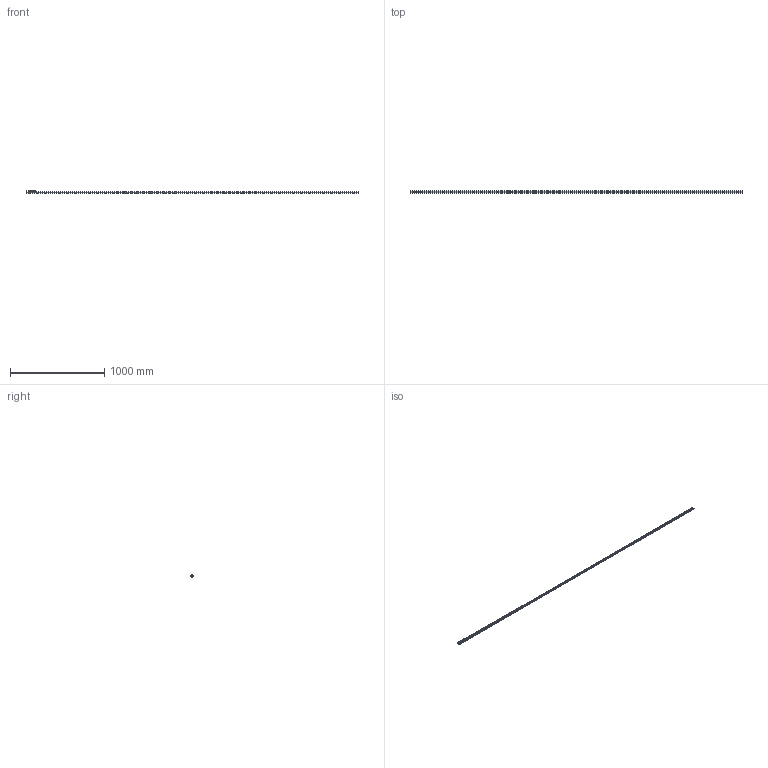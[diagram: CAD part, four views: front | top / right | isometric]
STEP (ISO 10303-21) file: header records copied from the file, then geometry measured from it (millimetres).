
FILE_DESCRIPTION( ( 'STEP AP214' ), '1' );
FILE_NAME( 'p:/temp/worker_22/temp/exporttempdir_5640_316_ax9Bd/format_1/TEN26-3520-CEN26-92.stp', '2020-05-08T18:55:26', ( 'License CC BY-ND 4.0' ), ( 'CADENAS' ), ' ', 'PARTsolutions', ' ' );
FILE_SCHEMA( ( 'AUTOMOTIVE_DESIGN { 1 0 10303 214 1 1 1 1 }' ) );
Length unit declared in the file: millimetre
Products named in the file (6): TEN26-3520-CEN26-92; _TEN 26-3520; _CEN26-92_1; _RLN26(11.2_M5); _RLA26(11.2_M5); _LAN-26
Assembly tree (8 placements, depth 2):
  TEN26-3520-CEN26-92
    _TEN 26-3520
    _CEN26-92_1
    _RLN26(11.2_M5)  x2
    _RLA26(11.2_M5)
    _LAN-26  x3
Bounding box: 3520 x 25.88 x 22 mm (x, y, z)
Volume: 376598.9 mm3; surface area: 319782.1 mm2
Topology: 8 solids, 8 shells, 277 faces, 633 edges, 399 vertices
Faces by surface type: plane 131, cylinder 113, cone 24, bspline 9
Full cylindrical faces by diameter (mm): 2.5 x2, 4.134 x5, 4.5 x3, 5 x6, 6.5 x44, 9.3 x3, 11.2 x6, 11.6 x6, 15.7 x6, 16.7 x6
Entity records: 7106 total; most frequent: CARTESIAN_POINT 1005, DIRECTION 976, ORIENTED_EDGE 710, AXIS2_PLACEMENT_3D 424, EDGE_LOOP 408, EDGE_CURVE 355, VERTEX_POINT 285, FACE_OUTER_BOUND 272
